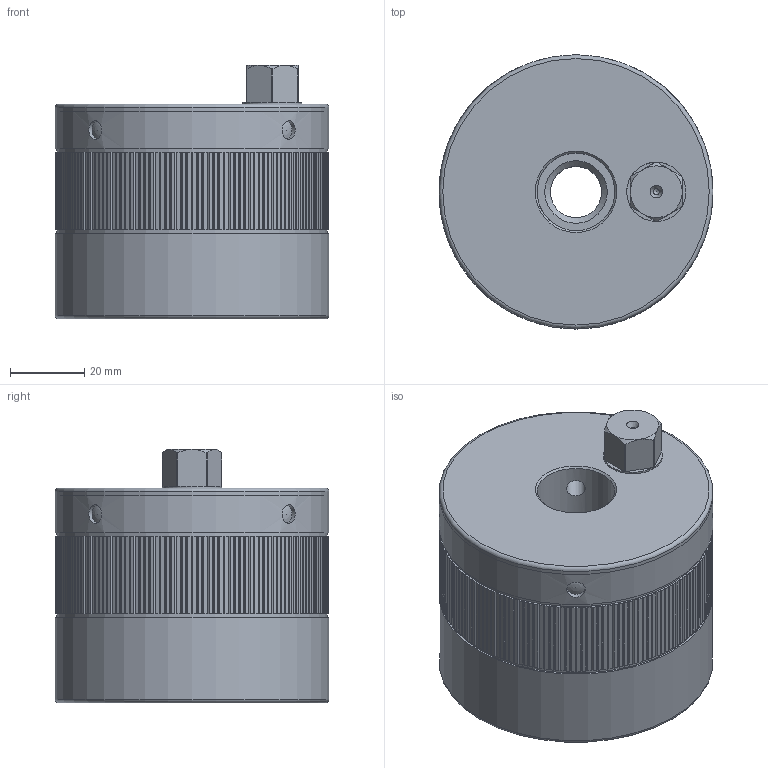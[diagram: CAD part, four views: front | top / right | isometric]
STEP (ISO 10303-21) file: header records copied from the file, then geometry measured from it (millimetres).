
FILE_DESCRIPTION(/* description */ ('Unknown','CAx-IF Rec.Pracs.---Representation and Presentation of Product Manufacturing Information (PMI)---4.0---2014-10-13','CAx-IF Rec.Pracs.---3D Tessellated Geometry---0.4---2014-09-14','2;1'),/* implementation_level */ '2;1');
FILE_NAME(/* name */ 'MDA 60_SW14_M16',/* time_stamp */ '2023-09-14T12:54:10+02:00',/* author */ ('Unknown'),/* organization */ ('Unknown'),/* preprocessor_version */ 'ST-DEVELOPER v18.102',/* originating_system */ 'Solid Edge',/* authorisation */ 'Unknown');
FILE_SCHEMA (('AP242_MANAGED_MODEL_BASED_3D_ENGINEERING_MIM_LF { 1 0 10303 442 1 1 4 }'));
Length unit declared in the file: millimetre
Products named in the file (7): 05933044; 43733042; kt101323; 46331542; 42231968; KT100075; 46432273
Assembly tree (9 placements, depth 2):
  05933044
    43733042
    kt101323
    46331542
    42231968
    KT100075  x4
    46432273
Bounding box: 74 x 74 x 68.5 mm (x, y, z)
Volume: 222039.2 mm3; surface area: 76600 mm2
Topology: 9 solids, 9 shells, 607 faces, 1730 edges, 1144 vertices
Faces by surface type: plane 354, cylinder 199, cone 31, torus 9, sphere 8, bspline 6
Full cylindrical faces by diameter (mm): 1.6 x2, 5 x12, 13.835 x1, 16 x2, 16.4 x1, 21 x1, 38 x3, 56.2 x1, 60.7 x1, 62 x1, 66.7 x1, 66.9 x1, 67 x3, 73 x2, 74 x3
Entity records: 19749 total; most frequent: CARTESIAN_POINT 3925, ORIENTED_EDGE 3206, DIRECTION 3182, EDGE_CURVE 1603, LINE 1142, VECTOR 1142, VERTEX_POINT 1103, AXIS2_PLACEMENT_3D 1020
